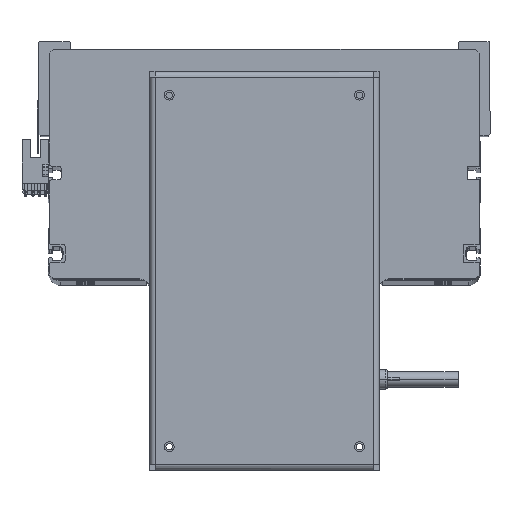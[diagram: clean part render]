
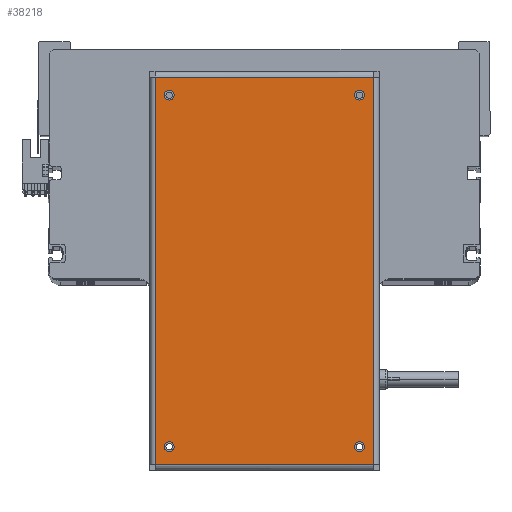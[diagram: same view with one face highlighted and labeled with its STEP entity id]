
A CAD part, top view. The second image highlights one B-rep face of the part: STEP entity #38218.
In plain terms, the highlighted planar face has unit normal (0, 0, 1).
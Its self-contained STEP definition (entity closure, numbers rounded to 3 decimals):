
#10 = ORIENTED_EDGE ( 'NONE', *, *, #6196, .F. ) ;
#332 = ORIENTED_EDGE ( 'NONE', *, *, #40448, .F. ) ;
#772 = CIRCLE ( 'NONE', #5426, 2.5 ) ;
#777 = CARTESIAN_POINT ( 'NONE',  ( 92.05, 48.5, 0. ) ) ;
#1259 = ORIENTED_EDGE ( 'NONE', *, *, #40961, .F. ) ;
#1334 = VERTEX_POINT ( 'NONE', #1541 ) ;
#1541 = CARTESIAN_POINT ( 'NONE',  ( 98.65, -55.6, 0. ) ) ;
#2146 = LINE ( 'NONE', #23968, #27642 ) ;
#2451 = CARTESIAN_POINT ( 'NONE',  ( 89.55, 48.5, 0. ) ) ;
#2648 = EDGE_LOOP ( 'NONE', ( #26577, #30663 ) ) ;
#2690 = DIRECTION ( 'NONE',  ( 1., 0., 0. ) ) ;
#2825 = DIRECTION ( 'NONE',  ( 0., 0., 1. ) ) ;
#3413 = DIRECTION ( 'NONE',  ( 0., 0., 1. ) ) ;
#3835 = LINE ( 'NONE', #25406, #37320 ) ;
#4200 = EDGE_CURVE ( 'NONE', #38387, #8450, #12511, .T. ) ;
#4581 = PLANE ( 'NONE',  #12418 ) ;
#5227 = CARTESIAN_POINT ( 'NONE',  ( 87.05, -48.5, 0. ) ) ;
#5426 = AXIS2_PLACEMENT_3D ( 'NONE', #26170, #22415, #26040 ) ;
#5709 = VERTEX_POINT ( 'NONE', #19451 ) ;
#6196 = EDGE_CURVE ( 'NONE', #25419, #31621, #9426, .T. ) ;
#6257 = DIRECTION ( 'NONE',  ( 0., 0., 1. ) ) ;
#7083 = ORIENTED_EDGE ( 'NONE', *, *, #14302, .T. ) ;
#7931 = AXIS2_PLACEMENT_3D ( 'NONE', #34811, #2825, #2690 ) ;
#8338 = DIRECTION ( 'NONE',  ( -1., 0., 0. ) ) ;
#8450 = VERTEX_POINT ( 'NONE', #29898 ) ;
#9003 = VECTOR ( 'NONE', #35394, 1000. ) ;
#9117 = AXIS2_PLACEMENT_3D ( 'NONE', #41459, #31565, #12411 ) ;
#9351 = DIRECTION ( 'NONE',  ( 1., 0., 0. ) ) ;
#9426 = CIRCLE ( 'NONE', #9117, 2.5 ) ;
#9854 = CARTESIAN_POINT ( 'NONE',  ( -92.05, 48.5, 0. ) ) ;
#10097 = AXIS2_PLACEMENT_3D ( 'NONE', #2451, #34456, #19366 ) ;
#10868 = DIRECTION ( 'NONE',  ( 1., 0., 0. ) ) ;
#11681 = ORIENTED_EDGE ( 'NONE', *, *, #4200, .F. ) ;
#11755 = AXIS2_PLACEMENT_3D ( 'NONE', #20920, #30537, #27439 ) ;
#11820 = EDGE_LOOP ( 'NONE', ( #7083, #35511, #21248, #38160 ) ) ;
#11910 = VERTEX_POINT ( 'NONE', #28230 ) ;
#12411 = DIRECTION ( 'NONE',  ( 1., 0., 0. ) ) ;
#12418 = AXIS2_PLACEMENT_3D ( 'NONE', #20947, #23830, #8338 ) ;
#12511 = CIRCLE ( 'NONE', #11755, 2.5 ) ;
#12553 = CARTESIAN_POINT ( 'NONE',  ( -87.05, -48.5, 0. ) ) ;
#12860 = EDGE_CURVE ( 'NONE', #11910, #32605, #36353, .T. ) ;
#12874 = EDGE_CURVE ( 'NONE', #32593, #34270, #3835, .T. ) ;
#13022 = CIRCLE ( 'NONE', #10097, 2.5 ) ;
#13125 = DIRECTION ( 'NONE',  ( -1., 0., 0. ) ) ;
#13745 = EDGE_CURVE ( 'NONE', #5709, #26914, #30307, .T. ) ;
#14302 = EDGE_CURVE ( 'NONE', #34270, #31281, #23779, .T. ) ;
#15348 = VECTOR ( 'NONE', #19952, 1000. ) ;
#15556 = CARTESIAN_POINT ( 'NONE',  ( 89.55, -48.5, 0. ) ) ;
#16092 = EDGE_LOOP ( 'NONE', ( #10, #1259 ) ) ;
#16244 = FACE_OUTER_BOUND ( 'NONE', #11820, .T. ) ;
#17715 = FACE_BOUND ( 'NONE', #2648, .T. ) ;
#17776 = DIRECTION ( 'NONE',  ( 1., 0., 0. ) ) ;
#19271 = CARTESIAN_POINT ( 'NONE',  ( -98.65, 55.6, 0. ) ) ;
#19366 = DIRECTION ( 'NONE',  ( 1., 0., 0. ) ) ;
#19451 = CARTESIAN_POINT ( 'NONE',  ( -92.05, -48.5, 0. ) ) ;
#19952 = DIRECTION ( 'NONE',  ( 0., -1., 0. ) ) ;
#20025 = EDGE_CURVE ( 'NONE', #26914, #5709, #26453, .T. ) ;
#20861 = DIRECTION ( 'NONE',  ( 0., 0., 1. ) ) ;
#20920 = CARTESIAN_POINT ( 'NONE',  ( -89.55, 48.5, 0. ) ) ;
#20937 = CARTESIAN_POINT ( 'NONE',  ( 98.65, 55.6, 0. ) ) ;
#20947 = CARTESIAN_POINT ( 'NONE',  ( 98.75, 58.5, 0. ) ) ;
#21248 = ORIENTED_EDGE ( 'NONE', *, *, #33441, .T. ) ;
#21589 = EDGE_LOOP ( 'NONE', ( #32257, #38100 ) ) ;
#22415 = DIRECTION ( 'NONE',  ( 0., 0., 1. ) ) ;
#22734 = EDGE_CURVE ( 'NONE', #32605, #11910, #772, .T. ) ;
#22870 = CARTESIAN_POINT ( 'NONE',  ( -98.65, 55.6, 0. ) ) ;
#23461 = CARTESIAN_POINT ( 'NONE',  ( -98.65, -55.6, 0. ) ) ;
#23498 = LINE ( 'NONE', #34988, #9003 ) ;
#23779 = LINE ( 'NONE', #22870, #15348 ) ;
#23830 = DIRECTION ( 'NONE',  ( 0., 0., -1. ) ) ;
#23968 = CARTESIAN_POINT ( 'NONE',  ( -98.75, -55.6, 0. ) ) ;
#25406 = CARTESIAN_POINT ( 'NONE',  ( 98.75, 55.6, 0. ) ) ;
#25419 = VERTEX_POINT ( 'NONE', #777 ) ;
#26040 = DIRECTION ( 'NONE',  ( 1., 0., 0. ) ) ;
#26170 = CARTESIAN_POINT ( 'NONE',  ( 89.55, -48.5, 0. ) ) ;
#26453 = CIRCLE ( 'NONE', #40231, 2.5 ) ;
#26506 = CIRCLE ( 'NONE', #30412, 2.5 ) ;
#26577 = ORIENTED_EDGE ( 'NONE', *, *, #12860, .F. ) ;
#26698 = FACE_BOUND ( 'NONE', #27342, .T. ) ;
#26914 = VERTEX_POINT ( 'NONE', #12553 ) ;
#27342 = EDGE_LOOP ( 'NONE', ( #332, #11681 ) ) ;
#27439 = DIRECTION ( 'NONE',  ( 1., 0., 0. ) ) ;
#27642 = VECTOR ( 'NONE', #10868, 1000. ) ;
#28230 = CARTESIAN_POINT ( 'NONE',  ( 92.05, -48.5, 0. ) ) ;
#29179 = CARTESIAN_POINT ( 'NONE',  ( 87.05, 48.5, 0. ) ) ;
#29511 = CARTESIAN_POINT ( 'NONE',  ( -89.55, 48.5, 0. ) ) ;
#29898 = CARTESIAN_POINT ( 'NONE',  ( -87.05, 48.5, 0. ) ) ;
#30307 = CIRCLE ( 'NONE', #7931, 2.5 ) ;
#30410 = AXIS2_PLACEMENT_3D ( 'NONE', #15556, #6257, #9351 ) ;
#30412 = AXIS2_PLACEMENT_3D ( 'NONE', #29511, #3413, #38721 ) ;
#30537 = DIRECTION ( 'NONE',  ( 0., 0., 1. ) ) ;
#30663 = ORIENTED_EDGE ( 'NONE', *, *, #22734, .F. ) ;
#31281 = VERTEX_POINT ( 'NONE', #23461 ) ;
#31565 = DIRECTION ( 'NONE',  ( 0., 0., 1. ) ) ;
#31621 = VERTEX_POINT ( 'NONE', #29179 ) ;
#31800 = EDGE_CURVE ( 'NONE', #31281, #1334, #2146, .T. ) ;
#32257 = ORIENTED_EDGE ( 'NONE', *, *, #20025, .F. ) ;
#32593 = VERTEX_POINT ( 'NONE', #20937 ) ;
#32605 = VERTEX_POINT ( 'NONE', #5227 ) ;
#33441 = EDGE_CURVE ( 'NONE', #1334, #32593, #23498, .T. ) ;
#34270 = VERTEX_POINT ( 'NONE', #19271 ) ;
#34456 = DIRECTION ( 'NONE',  ( 0., 0., 1. ) ) ;
#34811 = CARTESIAN_POINT ( 'NONE',  ( -89.55, -48.5, 0. ) ) ;
#34988 = CARTESIAN_POINT ( 'NONE',  ( 98.65, -55.6, 0. ) ) ;
#35394 = DIRECTION ( 'NONE',  ( 0., 1., 0. ) ) ;
#35511 = ORIENTED_EDGE ( 'NONE', *, *, #31800, .T. ) ;
#36353 = CIRCLE ( 'NONE', #30410, 2.5 ) ;
#37320 = VECTOR ( 'NONE', #13125, 1000. ) ;
#37679 = FACE_BOUND ( 'NONE', #16092, .T. ) ;
#38100 = ORIENTED_EDGE ( 'NONE', *, *, #13745, .F. ) ;
#38160 = ORIENTED_EDGE ( 'NONE', *, *, #12874, .T. ) ;
#38218 = ADVANCED_FACE ( 'NONE', ( #38692, #26698, #17715, #37679, #16244 ), #4581, .F. ) ;
#38387 = VERTEX_POINT ( 'NONE', #9854 ) ;
#38692 = FACE_BOUND ( 'NONE', #21589, .T. ) ;
#38721 = DIRECTION ( 'NONE',  ( 1., 0., 0. ) ) ;
#39947 = CARTESIAN_POINT ( 'NONE',  ( -89.55, -48.5, 0. ) ) ;
#40231 = AXIS2_PLACEMENT_3D ( 'NONE', #39947, #20861, #17776 ) ;
#40448 = EDGE_CURVE ( 'NONE', #8450, #38387, #26506, .T. ) ;
#40961 = EDGE_CURVE ( 'NONE', #31621, #25419, #13022, .T. ) ;
#41459 = CARTESIAN_POINT ( 'NONE',  ( 89.55, 48.5, 0. ) ) ;
